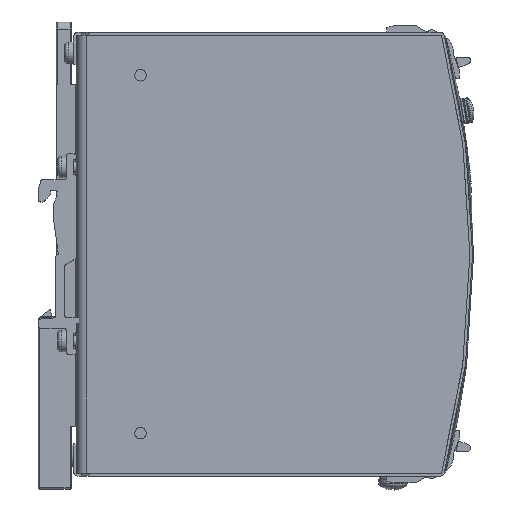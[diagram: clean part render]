
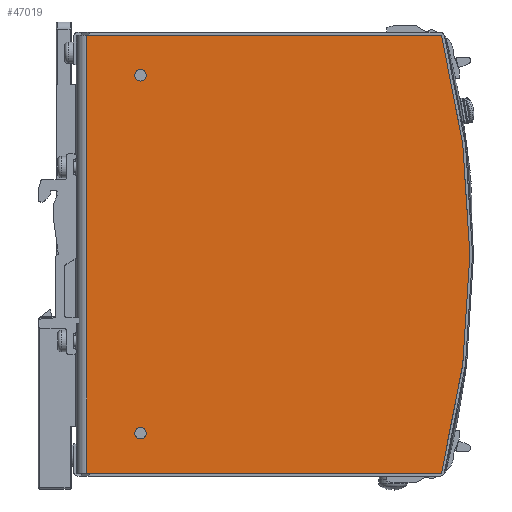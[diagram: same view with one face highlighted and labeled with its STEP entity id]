
A CAD part, front view. The second image highlights one B-rep face of the part: STEP entity #47019.
In plain terms, the highlighted planar face has unit normal (0, -1, 0).
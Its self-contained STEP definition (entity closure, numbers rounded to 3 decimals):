
#1160=LINE('',#64301,#6843);
#1167=LINE('',#64325,#6850);
#1169=LINE('',#64330,#6852);
#6843=VECTOR('',#52558,99.079);
#6850=VECTOR('',#52585,122.3);
#6852=VECTOR('',#52591,99.079);
#12510=PLANE('',#49489);
#14454=FACE_BOUND('',#17623,.T.);
#14455=FACE_BOUND('',#17624,.T.);
#15180=FACE_OUTER_BOUND('',#17622,.T.);
#17622=EDGE_LOOP('',(#33012,#33013,#33014,#33015));
#17623=EDGE_LOOP('',(#33016));
#17624=EDGE_LOOP('',(#33017));
#20749=CIRCLE('',#49453,1.6);
#20751=CIRCLE('',#49456,1.6);
#20756=CIRCLE('',#49468,240.);
#21431=VERTEX_POINT('',#64221);
#21433=VERTEX_POINT('',#64226);
#21446=VERTEX_POINT('',#64263);
#21447=VERTEX_POINT('',#64264);
#21461=VERTEX_POINT('',#64300);
#21468=VERTEX_POINT('',#64324);
#26028=EDGE_CURVE('',#21431,#21431,#20749,.T.);
#26030=EDGE_CURVE('',#21433,#21433,#20751,.T.);
#26047=EDGE_CURVE('',#21446,#21447,#20756,.T.);
#26065=EDGE_CURVE('',#21446,#21461,#1160,.T.);
#26077=EDGE_CURVE('',#21468,#21461,#1167,.T.);
#26080=EDGE_CURVE('',#21447,#21468,#1169,.T.);
#33012=ORIENTED_EDGE('',*,*,#26047,.T.);
#33013=ORIENTED_EDGE('',*,*,#26080,.T.);
#33014=ORIENTED_EDGE('',*,*,#26077,.T.);
#33015=ORIENTED_EDGE('',*,*,#26065,.F.);
#33016=ORIENTED_EDGE('',*,*,#26028,.T.);
#33017=ORIENTED_EDGE('',*,*,#26030,.T.);
#47019=ADVANCED_FACE('',(#15180,#14454,#14455),#12510,.T.);
#49453=AXIS2_PLACEMENT_3D('',#64222,#52484,#52485);
#49456=AXIS2_PLACEMENT_3D('',#64227,#52490,#52491);
#49468=AXIS2_PLACEMENT_3D('',#64265,#52526,#52527);
#49489=AXIS2_PLACEMENT_3D('',#64329,#52589,#52590);
#52484=DIRECTION('center_axis',(0.,1.,0.));
#52485=DIRECTION('ref_axis',(-1.,0.,0.));
#52490=DIRECTION('center_axis',(0.,1.,0.));
#52491=DIRECTION('ref_axis',(-1.,0.,0.));
#52526=DIRECTION('center_axis',(0.,-1.,0.));
#52527=DIRECTION('ref_axis',(-0.967,0.,-0.255));
#52558=DIRECTION('',(-1.,0.,0.));
#52585=DIRECTION('',(0.,0.,-1.));
#52589=DIRECTION('center_axis',(0.,-1.,0.));
#52590=DIRECTION('ref_axis',(0.,0.,-1.));
#52591=DIRECTION('',(-1.,0.,0.));
#64221=CARTESIAN_POINT('',(19.6,-19.5,50.));
#64222=CARTESIAN_POINT('Origin',(18.,-19.5,50.));
#64226=CARTESIAN_POINT('',(19.6,-19.5,-50.));
#64227=CARTESIAN_POINT('Origin',(18.,-19.5,-50.));
#64263=CARTESIAN_POINT('',(102.079,-19.5,-61.15));
#64264=CARTESIAN_POINT('',(102.079,-19.5,61.15));
#64265=CARTESIAN_POINT('Origin',(-130.,-19.5,0.));
#64300=CARTESIAN_POINT('',(3.,-19.5,-61.15));
#64301=CARTESIAN_POINT('',(130.,-19.5,-61.15));
#64324=CARTESIAN_POINT('',(3.,-19.5,61.15));
#64325=CARTESIAN_POINT('',(3.,-19.5,-61.15));
#64329=CARTESIAN_POINT('Origin',(130.,-19.5,-61.15));
#64330=CARTESIAN_POINT('',(130.,-19.5,61.15));
